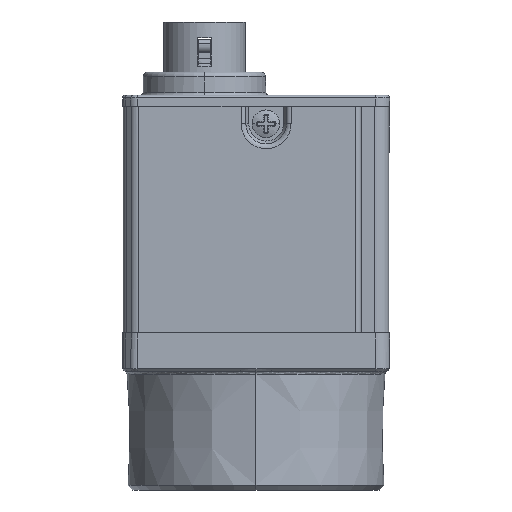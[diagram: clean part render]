
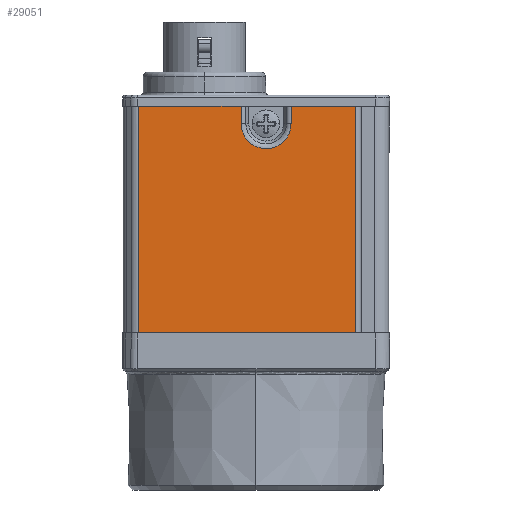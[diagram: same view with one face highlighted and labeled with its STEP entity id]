
A CAD part, left-side view. The second image highlights one B-rep face of the part: STEP entity #29051.
In plain terms, the highlighted planar face has unit normal (-1, 0, 0).
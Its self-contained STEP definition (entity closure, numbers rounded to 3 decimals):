
#1546=DIRECTION('',(0.,1.,0.));
#1547=VECTOR('',#1546,6.992);
#1548=CARTESIAN_POINT('',(-14.5,-10.8,28.8));
#1549=LINE('',#1548,#1547);
#1550=DIRECTION('',(0.,1.,0.));
#1551=VECTOR('',#1550,11.177);
#1552=CARTESIAN_POINT('',(-14.5,1.608,28.8));
#1553=LINE('',#1552,#1551);
#1572=DIRECTION('',(0.,0.,1.));
#1573=VECTOR('',#1572,24.6);
#1574=CARTESIAN_POINT('',(-14.5,12.786,4.2));
#1575=LINE('',#1574,#1573);
#1576=CARTESIAN_POINT('',(-14.5,-1.1,26.9));
#1577=DIRECTION('',(-1.,0.,0.));
#1578=DIRECTION('',(0.,1.,0.));
#1579=AXIS2_PLACEMENT_3D('',#1576,#1577,#1578);
#1581=CARTESIAN_POINT('',(-14.5,-1.1,26.9));
#1582=DIRECTION('',(-1.,0.,0.));
#1583=DIRECTION('',(0.,0.995,-0.102));
#1584=AXIS2_PLACEMENT_3D('',#1581,#1582,#1583);
#1586=DIRECTION('',(0.,0.,1.));
#1587=VECTOR('',#1586,24.6);
#1588=CARTESIAN_POINT('',(-14.5,-10.8,4.2));
#1589=LINE('',#1588,#1587);
#1595=DIRECTION('',(0.,-1.,0.));
#1596=VECTOR('',#1595,23.586);
#1597=CARTESIAN_POINT('',(-14.5,12.786,4.2));
#1598=LINE('',#1597,#1596);
#21865=DIRECTION('',(0.,0.,1.));
#21866=VECTOR('',#21865,1.9);
#21867=CARTESIAN_POINT('',(-14.5,1.608,26.9));
#21868=LINE('',#21867,#21866);
#21913=DIRECTION('',(0.,0.,-1.));
#21914=VECTOR('',#21913,1.9);
#21915=CARTESIAN_POINT('',(-14.5,-3.808,28.8));
#21916=LINE('',#21915,#21914);
#24515=CARTESIAN_POINT('',(-14.5,1.608,26.9));
#24516=CARTESIAN_POINT('',(-14.5,1.594,26.623));
#24517=VERTEX_POINT('',#24515);
#24518=VERTEX_POINT('',#24516);
#24519=CARTESIAN_POINT('',(-14.5,-3.808,26.9));
#24520=VERTEX_POINT('',#24519);
#24545=CARTESIAN_POINT('',(-14.5,12.786,4.2));
#24546=CARTESIAN_POINT('',(-14.5,-10.8,4.2));
#24547=VERTEX_POINT('',#24545);
#24548=VERTEX_POINT('',#24546);
#26491=CARTESIAN_POINT('',(-14.5,-10.8,28.8));
#26492=CARTESIAN_POINT('',(-14.5,-3.808,28.8));
#26493=VERTEX_POINT('',#26491);
#26494=VERTEX_POINT('',#26492);
#26495=CARTESIAN_POINT('',(-14.5,1.608,28.8));
#26496=CARTESIAN_POINT('',(-14.5,12.786,28.8));
#26497=VERTEX_POINT('',#26495);
#26498=VERTEX_POINT('',#26496);
#29029=CARTESIAN_POINT('',(-14.5,0.993,16.5));
#29030=DIRECTION('',(1.,0.,0.));
#29031=DIRECTION('',(0.,1.,0.));
#29032=AXIS2_PLACEMENT_3D('',#29029,#29030,#29031);
#29033=PLANE('',#29032);
#29034=ORIENTED_EDGE('',*,*,#29013,.F.);
#29036=ORIENTED_EDGE('',*,*,#29035,.F.);
#29038=ORIENTED_EDGE('',*,*,#29037,.F.);
#29039=ORIENTED_EDGE('',*,*,#29001,.T.);
#29040=ORIENTED_EDGE('',*,*,#29016,.F.);
#29042=ORIENTED_EDGE('',*,*,#29041,.F.);
#29044=ORIENTED_EDGE('',*,*,#29043,.T.);
#29046=ORIENTED_EDGE('',*,*,#29045,.T.);
#29048=ORIENTED_EDGE('',*,*,#29047,.F.);
#29049=EDGE_LOOP('',(#29034,#29036,#29038,#29039,#29040,#29042,#29044,#29046,
#29048));
#29050=FACE_OUTER_BOUND('',#29049,.F.);
#29051=ADVANCED_FACE('',(#29050),#29033,.F.);
#1580=CIRCLE('',#1579,2.708);
#1585=CIRCLE('',#1584,2.708);
#29001=EDGE_CURVE('',#24547,#26498,#1575,.T.);
#29013=EDGE_CURVE('',#26493,#26494,#1549,.T.);
#29016=EDGE_CURVE('',#26497,#26498,#1553,.T.);
#29035=EDGE_CURVE('',#24548,#26493,#1589,.T.);
#29037=EDGE_CURVE('',#24547,#24548,#1598,.T.);
#29041=EDGE_CURVE('',#24517,#26497,#21868,.T.);
#29043=EDGE_CURVE('',#24517,#24518,#1580,.T.);
#29045=EDGE_CURVE('',#24518,#24520,#1585,.T.);
#29047=EDGE_CURVE('',#26494,#24520,#21916,.T.);
